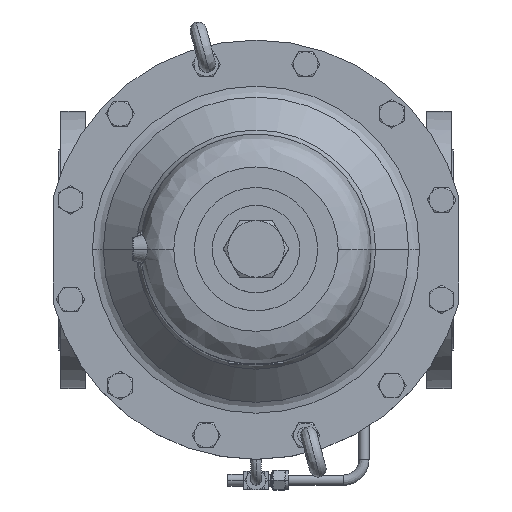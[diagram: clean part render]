
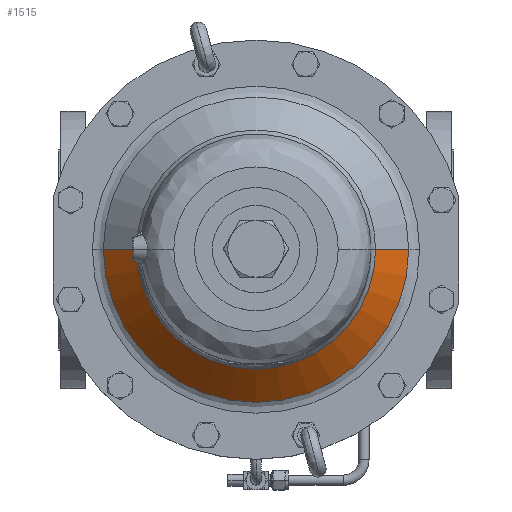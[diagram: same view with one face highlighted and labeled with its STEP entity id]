
A CAD part, top view. The second image highlights one B-rep face of the part: STEP entity #1515.
In plain terms, the highlighted free-form (B-spline) face has degree [2, 1] with [5, 2] control points.
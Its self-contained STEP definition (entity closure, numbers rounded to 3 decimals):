
#1515=ADVANCED_FACE('',(#6232),#6231,.T.);
#6231=( BOUNDED_SURFACE() B_SPLINE_SURFACE( 2,1,((#11163,#11164),(#11165,#11166),(#11167,#11168),(#11169,#11170),(#11171,#11172)), .UNSPECIFIED.,.F.,.F.,.F.) B_SPLINE_SURFACE_WITH_KNOTS((3,2,3),(2,2),(0.,0.5,1.),(0.,1.), .UNSPECIFIED. ) GEOMETRIC_REPRESENTATION_ITEM() RATIONAL_B_SPLINE_SURFACE(((1.,1.),(0.707,0.707),(1.,1.),(0.707,0.707),(1.,1.))) REPRESENTATION_ITEM('') SURFACE() );
#6232=FACE_OUTER_BOUND('',#11173,.T.);
#11163=CARTESIAN_POINT('',(0.,0.,186.971));
#11164=CARTESIAN_POINT('',(210.12,0.,-23.149));
#11165=CARTESIAN_POINT('',(0.,0.,186.971));
#11166=CARTESIAN_POINT('',(210.12,-210.12,-23.149));
#11167=CARTESIAN_POINT('',(0.,0.,186.971));
#11168=CARTESIAN_POINT('',(0.,-210.12,-23.149));
#11169=CARTESIAN_POINT('',(0.,0.,186.971));
#11170=CARTESIAN_POINT('',(-210.12,-210.12,-23.149));
#11171=CARTESIAN_POINT('',(0.,0.,186.971));
#11172=CARTESIAN_POINT('',(-210.12,0.,-23.149));
#11173=EDGE_LOOP('',(#14441,#14442,#14443,#14444));
#14441=ORIENTED_EDGE('',*,*,#16158,.F.);
#14442=ORIENTED_EDGE('',*,*,#16161,.F.);
#14443=ORIENTED_EDGE('',*,*,#16162,.T.);
#14444=ORIENTED_EDGE('',*,*,#16163,.T.);
#16158=EDGE_CURVE('',#23864,#23871,#23872,.T.);
#16161=EDGE_CURVE('',#23890,#23864,#23891,.T.);
#16162=EDGE_CURVE('',#23890,#23897,#23898,.T.);
#16163=EDGE_CURVE('',#23897,#23871,#23904,.T.);
#23864=VERTEX_POINT('',#32107);
#23871=VERTEX_POINT('',#32111);
#23872=CIRCLE('',#32115,148.577);
#23890=VERTEX_POINT('',#32123);
#23891=(BOUNDED_CURVE() B_SPLINE_CURVE(1,(#32124,#32125),.UNSPECIFIED.,.F.,.F.) B_SPLINE_CURVE_WITH_KNOTS((2,2),(0.554,0.707),.UNSPECIFIED.) CURVE() GEOMETRIC_REPRESENTATION_ITEM() RATIONAL_B_SPLINE_CURVE((1.,1.)) REPRESENTATION_ITEM('') );
#23897=VERTEX_POINT('',#32126);
#23898=CIRCLE('',#32130,116.393);
#23904=(BOUNDED_CURVE() B_SPLINE_CURVE(1,(#32131,#32132),.UNSPECIFIED.,.F.,.F.) B_SPLINE_CURVE_WITH_KNOTS((2,2),(0.554,0.707),.UNSPECIFIED.) CURVE() GEOMETRIC_REPRESENTATION_ITEM() RATIONAL_B_SPLINE_CURVE((0.75,0.75)) REPRESENTATION_ITEM('') );
#32107=CARTESIAN_POINT('',(148.577,0.,38.393));
#32111=CARTESIAN_POINT('',(-148.577,0.,38.393));
#32112=CARTESIAN_POINT('',(0.,0.,38.393));
#32113=DIRECTION('',(0.,0.,-1.));
#32114=DIRECTION('',(-1.,0.,0.));
#32115=AXIS2_PLACEMENT_3D('',#32112,#32113,#32114);
#32123=CARTESIAN_POINT('',(116.393,0.,70.577));
#32124=CARTESIAN_POINT('',(116.393,0.,70.577));
#32125=CARTESIAN_POINT('',(148.577,0.,38.393));
#32126=CARTESIAN_POINT('',(-116.393,0.,70.577));
#32127=CARTESIAN_POINT('',(0.,0.,70.577));
#32128=DIRECTION('',(0.,0.,-1.));
#32129=DIRECTION('',(-1.,0.,0.));
#32130=AXIS2_PLACEMENT_3D('',#32127,#32128,#32129);
#32131=CARTESIAN_POINT('',(-116.393,0.,70.577));
#32132=CARTESIAN_POINT('',(-148.577,0.,38.393));
